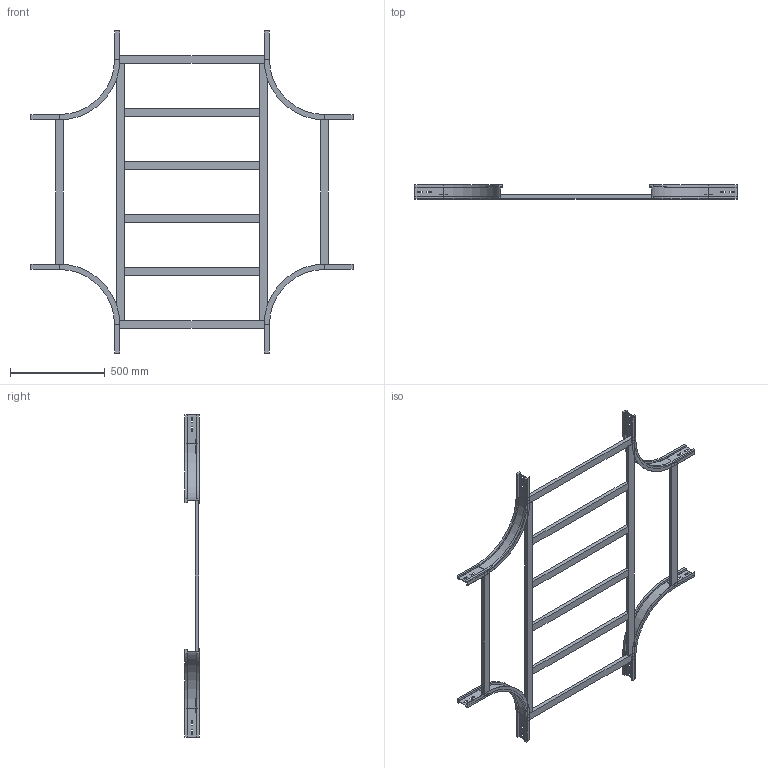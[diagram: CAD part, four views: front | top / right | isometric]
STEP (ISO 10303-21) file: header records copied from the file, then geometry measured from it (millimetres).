
FILE_DESCRIPTION (( 'STEP AP214' ), '1' );
FILE_NAME ('17S3C800.step', '2025-02-21T16:18:45', ( '' ), ( '' ), 'SwSTEP 2.0', 'SolidWorks 2023', '' );
FILE_SCHEMA (( 'AUTOMOTIVE_DESIGN' ));
Length unit declared in the file: millimetre
Products named in the file (5): LONGH.INTERNO 90°_H75_R300; TRAVERSINO_800; TRAVERSINO_INTERMEDIO_X_R300+800; TRAVERSINO_LONG._R300+800; 17S3C800
Assembly tree (14 placements, depth 2):
  17S3C800
    LONGH.INTERNO 90°_H75_R300  x4
    TRAVERSINO_800  x4
    TRAVERSINO_INTERMEDIO_X_R300+800  x4
    TRAVERSINO_LONG._R300+800  x2
Bounding box: 1700 x 75 x 1700 mm (x, y, z)
Volume: 8621621.7 mm3; surface area: 1840528.8 mm2
Topology: 14 solids, 14 shells, 276 faces, 648 edges, 400 vertices
Faces by surface type: plane 252, cylinder 24
Entity records: 2242 total; most frequent: CARTESIAN_POINT 361, DIRECTION 358, ORIENTED_EDGE 336, EDGE_CURVE 168, VECTOR 156, LINE 156, VERTEX_POINT 104, AXIS2_PLACEMENT_3D 101
